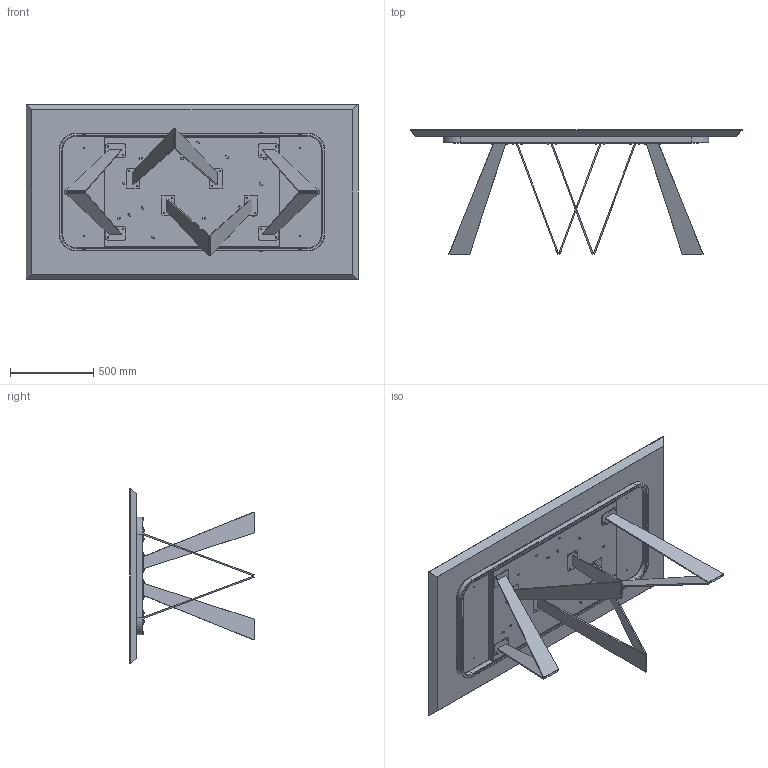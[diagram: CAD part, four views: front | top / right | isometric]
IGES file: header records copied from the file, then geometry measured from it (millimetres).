
Start section: SolidWorks IGES file using analytic representation for surfaces
Global section: file name: Y:\eforma\TECNICO\SOLIDWORKS\E-FORMA\1-TAVOLI\NOA TAVOLO\02 parts\NO21W_Noa_200x106x75h_Wood Rectangular.IGS; native system: SolidWorks 2022; preprocessor: SolidWorks 2022; author: eforma.tech; date: 240807.162944; units: millimetre
Bounding box: 2000 x 747.8 x 1060 mm (x, y, z)
Volume: 86004335.3 mm3; surface area: 8393187.4 mm2
Topology: 70 solids, 70 shells, 1684 faces, 3862 edges, 2283 vertices
Faces by surface type: revolution 1044, plane 640
